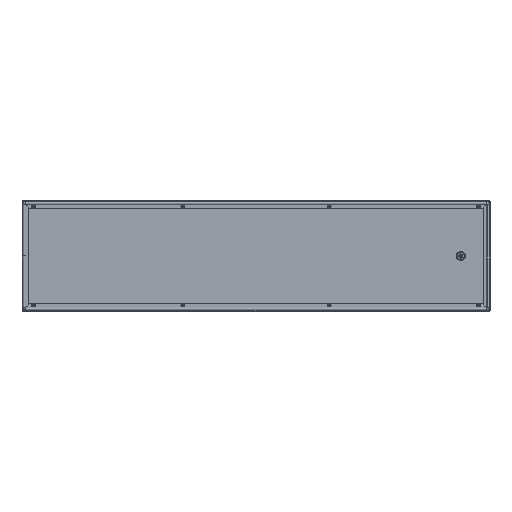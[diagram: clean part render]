
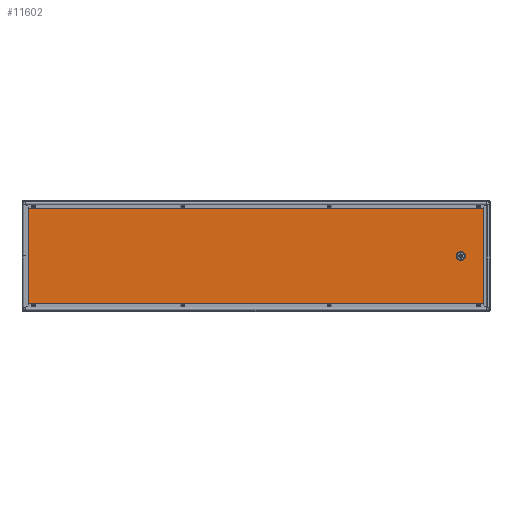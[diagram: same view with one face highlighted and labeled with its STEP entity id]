
A CAD part, top view. The second image highlights one B-rep face of the part: STEP entity #11602.
In plain terms, the highlighted planar face has unit normal (0, 0, 1).
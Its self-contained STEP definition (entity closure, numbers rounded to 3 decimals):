
#383 = DIRECTION ( 'NONE',  ( 1., 0., 0. ) ) ;
#1153 = AXIS2_PLACEMENT_3D ( 'NONE', #1814, #9568, #6892 ) ;
#1227 = CARTESIAN_POINT ( 'NONE',  ( 715.5, 0., 1.4 ) ) ;
#1325 = PLANE ( 'NONE',  #12520 ) ;
#1412 = DIRECTION ( 'NONE',  ( 1., 0., 0. ) ) ;
#1444 = ORIENTED_EDGE ( 'NONE', *, *, #4118, .F. ) ;
#1709 = ORIENTED_EDGE ( 'NONE', *, *, #8282, .F. ) ;
#1789 = CARTESIAN_POINT ( 'NONE',  ( -797.1, -185.6, 1.4 ) ) ;
#1814 = CARTESIAN_POINT ( 'NONE',  ( 700., 0., 1.4 ) ) ;
#1871 = CIRCLE ( 'NONE', #8969, 15.5 ) ;
#1975 = DIRECTION ( 'NONE',  ( 0., -1., 0. ) ) ;
#2373 = CARTESIAN_POINT ( 'NONE',  ( 797.1, 185., 1.4 ) ) ;
#2479 = DIRECTION ( 'NONE',  ( 0., 0., 1. ) ) ;
#2721 = DIRECTION ( 'NONE',  ( 1., 0., 0. ) ) ;
#2770 = AXIS2_PLACEMENT_3D ( 'NONE', #5285, #12032, #9152 ) ;
#3040 = ORIENTED_EDGE ( 'NONE', *, *, #6693, .F. ) ;
#3086 = ORIENTED_EDGE ( 'NONE', *, *, #5335, .F. ) ;
#3230 = VERTEX_POINT ( 'NONE', #10186 ) ;
#3334 = CARTESIAN_POINT ( 'NONE',  ( -797.1, -186.959, 1.4 ) ) ;
#3336 = EDGE_LOOP ( 'NONE', ( #1709, #4586, #9275, #11482, #3040, #10693, #4934, #3086 ) ) ;
#3394 = EDGE_CURVE ( 'NONE', #6080, #3230, #11713, .T. ) ;
#3931 = AXIS2_PLACEMENT_3D ( 'NONE', #4210, #2479, #1412 ) ;
#4118 = EDGE_CURVE ( 'NONE', #5445, #11040, #1871, .T. ) ;
#4153 = DIRECTION ( 'NONE',  ( 0., 0., 1. ) ) ;
#4210 = CARTESIAN_POINT ( 'NONE',  ( 797.1, 185.6, 1.4 ) ) ;
#4501 = CARTESIAN_POINT ( 'NONE',  ( 684.5, 0., 1.4 ) ) ;
#4524 = VECTOR ( 'NONE', #2721, 1000. ) ;
#4586 = ORIENTED_EDGE ( 'NONE', *, *, #9717, .F. ) ;
#4663 = VERTEX_POINT ( 'NONE', #8867 ) ;
#4934 = ORIENTED_EDGE ( 'NONE', *, *, #7114, .F. ) ;
#5004 = CIRCLE ( 'NONE', #1153, 15.5 ) ;
#5131 = DIRECTION ( 'NONE',  ( 1., 0., 0. ) ) ;
#5165 = CIRCLE ( 'NONE', #12265, 0.6 ) ;
#5204 = CARTESIAN_POINT ( 'NONE',  ( 0., 0., 1.4 ) ) ;
#5285 = CARTESIAN_POINT ( 'NONE',  ( 797.1, -185.6, 1.4 ) ) ;
#5335 = EDGE_CURVE ( 'NONE', #6778, #9738, #8999, .T. ) ;
#5445 = VERTEX_POINT ( 'NONE', #4501 ) ;
#5606 = DIRECTION ( 'NONE',  ( 0., 0., 1. ) ) ;
#5647 = CARTESIAN_POINT ( 'NONE',  ( -798.459, 185.6, 1.4 ) ) ;
#6080 = VERTEX_POINT ( 'NONE', #12167 ) ;
#6617 = EDGE_LOOP ( 'NONE', ( #9899, #1444 ) ) ;
#6693 = EDGE_CURVE ( 'NONE', #4663, #6080, #11403, .T. ) ;
#6699 = DIRECTION ( 'NONE',  ( -1., 0., 0. ) ) ;
#6778 = VERTEX_POINT ( 'NONE', #11739 ) ;
#6892 = DIRECTION ( 'NONE',  ( 1., 0., 0. ) ) ;
#7022 = CARTESIAN_POINT ( 'NONE',  ( -797.1, 185., 1.4 ) ) ;
#7088 = FACE_OUTER_BOUND ( 'NONE', #3336, .T. ) ;
#7114 = EDGE_CURVE ( 'NONE', #9738, #9236, #10680, .T. ) ;
#7590 = VECTOR ( 'NONE', #1975, 1000. ) ;
#8282 = EDGE_CURVE ( 'NONE', #10497, #6778, #8433, .T. ) ;
#8283 = DIRECTION ( 'NONE',  ( 0., 1., 0. ) ) ;
#8328 = CARTESIAN_POINT ( 'NONE',  ( 797.1, 186.959, 1.4 ) ) ;
#8433 = LINE ( 'NONE', #5647, #4524 ) ;
#8765 = FACE_BOUND ( 'NONE', #6617, .T. ) ;
#8867 = CARTESIAN_POINT ( 'NONE',  ( 796.5, -185.6, 1.4 ) ) ;
#8940 = VERTEX_POINT ( 'NONE', #7022 ) ;
#8969 = AXIS2_PLACEMENT_3D ( 'NONE', #9000, #11757, #5131 ) ;
#8989 = CARTESIAN_POINT ( 'NONE',  ( 797.1, -185., 1.4 ) ) ;
#8999 = CIRCLE ( 'NONE', #3931, 0.6 ) ;
#9000 = CARTESIAN_POINT ( 'NONE',  ( 700., 0., 1.4 ) ) ;
#9069 = EDGE_CURVE ( 'NONE', #3230, #8940, #11100, .T. ) ;
#9071 = DIRECTION ( 'NONE',  ( 0., 0., 1. ) ) ;
#9152 = DIRECTION ( 'NONE',  ( 1., 0., 0. ) ) ;
#9214 = VECTOR ( 'NONE', #6699, 1000. ) ;
#9236 = VERTEX_POINT ( 'NONE', #8989 ) ;
#9275 = ORIENTED_EDGE ( 'NONE', *, *, #9069, .F. ) ;
#9568 = DIRECTION ( 'NONE',  ( 0., 0., 1. ) ) ;
#9717 = EDGE_CURVE ( 'NONE', #8940, #10497, #5165, .T. ) ;
#9735 = DIRECTION ( 'NONE',  ( 1., 0., 0. ) ) ;
#9738 = VERTEX_POINT ( 'NONE', #2373 ) ;
#9899 = ORIENTED_EDGE ( 'NONE', *, *, #11967, .F. ) ;
#9939 = CARTESIAN_POINT ( 'NONE',  ( -797.1, 185.6, 1.4 ) ) ;
#10186 = CARTESIAN_POINT ( 'NONE',  ( -797.1, -185., 1.4 ) ) ;
#10497 = VERTEX_POINT ( 'NONE', #11270 ) ;
#10516 = CARTESIAN_POINT ( 'NONE',  ( 798.459, -185.6, 1.4 ) ) ;
#10680 = LINE ( 'NONE', #8328, #7590 ) ;
#10686 = AXIS2_PLACEMENT_3D ( 'NONE', #1789, #5606, #9735 ) ;
#10693 = ORIENTED_EDGE ( 'NONE', *, *, #11257, .F. ) ;
#10898 = DIRECTION ( 'NONE',  ( 1., 0., 0. ) ) ;
#11040 = VERTEX_POINT ( 'NONE', #1227 ) ;
#11100 = LINE ( 'NONE', #3334, #11441 ) ;
#11257 = EDGE_CURVE ( 'NONE', #9236, #4663, #12311, .T. ) ;
#11270 = CARTESIAN_POINT ( 'NONE',  ( -796.5, 185.6, 1.4 ) ) ;
#11403 = LINE ( 'NONE', #10516, #9214 ) ;
#11441 = VECTOR ( 'NONE', #8283, 1000. ) ;
#11482 = ORIENTED_EDGE ( 'NONE', *, *, #3394, .F. ) ;
#11602 = ADVANCED_FACE ( 'NONE', ( #7088, #8765 ), #1325, .T. ) ;
#11713 = CIRCLE ( 'NONE', #10686, 0.6 ) ;
#11739 = CARTESIAN_POINT ( 'NONE',  ( 796.5, 185.6, 1.4 ) ) ;
#11757 = DIRECTION ( 'NONE',  ( 0., 0., 1. ) ) ;
#11967 = EDGE_CURVE ( 'NONE', #11040, #5445, #5004, .T. ) ;
#12032 = DIRECTION ( 'NONE',  ( 0., 0., 1. ) ) ;
#12167 = CARTESIAN_POINT ( 'NONE',  ( -796.5, -185.6, 1.4 ) ) ;
#12265 = AXIS2_PLACEMENT_3D ( 'NONE', #9939, #4153, #10898 ) ;
#12311 = CIRCLE ( 'NONE', #2770, 0.6 ) ;
#12520 = AXIS2_PLACEMENT_3D ( 'NONE', #5204, #9071, #383 ) ;
